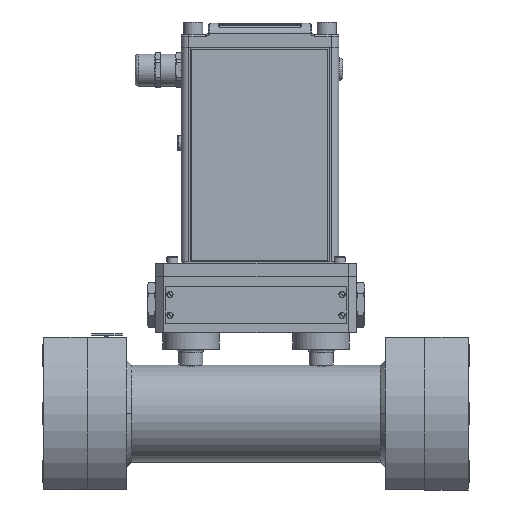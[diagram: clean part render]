
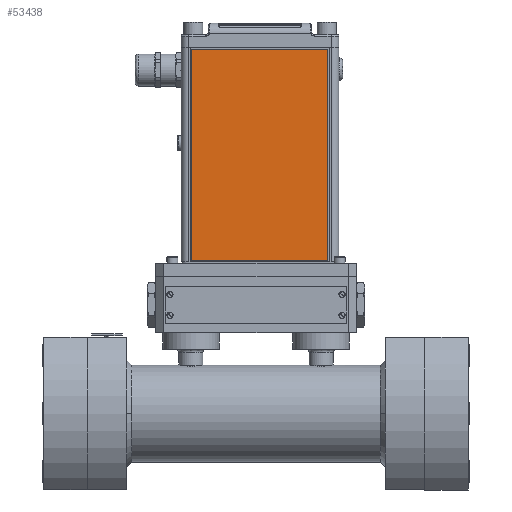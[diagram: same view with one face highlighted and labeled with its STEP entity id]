
A CAD part, front view. The second image highlights one B-rep face of the part: STEP entity #53438.
In plain terms, the highlighted planar face has unit normal (0, -1, 0).
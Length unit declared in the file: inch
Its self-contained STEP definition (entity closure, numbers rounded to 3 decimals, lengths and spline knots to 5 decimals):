
#4235 = VERTEX_POINT ( 'NONE', #40783 ) ;
#4930 = CARTESIAN_POINT ( 'NONE',  ( -2.37132, -0.96232, 3.515 ) ) ;
#5930 = LINE ( 'NONE', #31883, #11929 ) ;
#7238 = FACE_OUTER_BOUND ( 'NONE', #20361, .T. ) ;
#11440 = VECTOR ( 'NONE', #11984, 39.37008 ) ;
#11929 = VECTOR ( 'NONE', #49674, 39.37008 ) ;
#11984 = DIRECTION ( 'NONE',  ( 0., 0., -1. ) ) ;
#12047 = LINE ( 'NONE', #39124, #16898 ) ;
#12365 = EDGE_CURVE ( 'NONE', #46529, #53197, #12047, .T. ) ;
#13706 = EDGE_CURVE ( 'NONE', #4235, #37183, #24237, .T. ) ;
#16898 = VECTOR ( 'NONE', #30663, 39.37008 ) ;
#18656 = AXIS2_PLACEMENT_3D ( 'NONE', #37838, #29678, #28521 ) ;
#20361 = EDGE_LOOP ( 'NONE', ( #29419, #54705, #29971, #35619 ) ) ;
#24237 = LINE ( 'NONE', #42011, #11440 ) ;
#28521 = DIRECTION ( 'NONE',  ( 0., 0., -1. ) ) ;
#29419 = ORIENTED_EDGE ( 'NONE', *, *, #13706, .T. ) ;
#29678 = DIRECTION ( 'NONE',  ( 0., -1., 0. ) ) ;
#29953 = EDGE_CURVE ( 'NONE', #37183, #46529, #47568, .T. ) ;
#29971 = ORIENTED_EDGE ( 'NONE', *, *, #12365, .T. ) ;
#30663 = DIRECTION ( 'NONE',  ( 0., 0., 1. ) ) ;
#31883 = CARTESIAN_POINT ( 'NONE',  ( -4.03632, -0.96232, 8.685 ) ) ;
#32527 = CARTESIAN_POINT ( 'NONE',  ( -5.70132, -0.96232, 3.515 ) ) ;
#33802 = VECTOR ( 'NONE', #56914, 39.37008 ) ;
#34434 = CARTESIAN_POINT ( 'NONE',  ( -4.03632, -0.96232, 3.515 ) ) ;
#35619 = ORIENTED_EDGE ( 'NONE', *, *, #51445, .T. ) ;
#37183 = VERTEX_POINT ( 'NONE', #32527 ) ;
#37838 = CARTESIAN_POINT ( 'NONE',  ( -4.03632, -0.96232, 3.515 ) ) ;
#39124 = CARTESIAN_POINT ( 'NONE',  ( -2.37132, -0.96232, 3.515 ) ) ;
#40783 = CARTESIAN_POINT ( 'NONE',  ( -5.70132, -0.96232, 8.685 ) ) ;
#42011 = CARTESIAN_POINT ( 'NONE',  ( -5.70132, -0.96232, 3.515 ) ) ;
#44286 = CARTESIAN_POINT ( 'NONE',  ( -2.37132, -0.96232, 8.685 ) ) ;
#46529 = VERTEX_POINT ( 'NONE', #4930 ) ;
#47568 = LINE ( 'NONE', #34434, #33802 ) ;
#49674 = DIRECTION ( 'NONE',  ( -1., 0., 0. ) ) ;
#50696 = PLANE ( 'NONE',  #18656 ) ;
#51445 = EDGE_CURVE ( 'NONE', #53197, #4235, #5930, .T. ) ;
#53197 = VERTEX_POINT ( 'NONE', #44286 ) ;
#53438 = ADVANCED_FACE ( 'NONE', ( #7238 ), #50696, .T. ) ;
#54705 = ORIENTED_EDGE ( 'NONE', *, *, #29953, .T. ) ;
#56914 = DIRECTION ( 'NONE',  ( 1., 0., 0. ) ) ;
